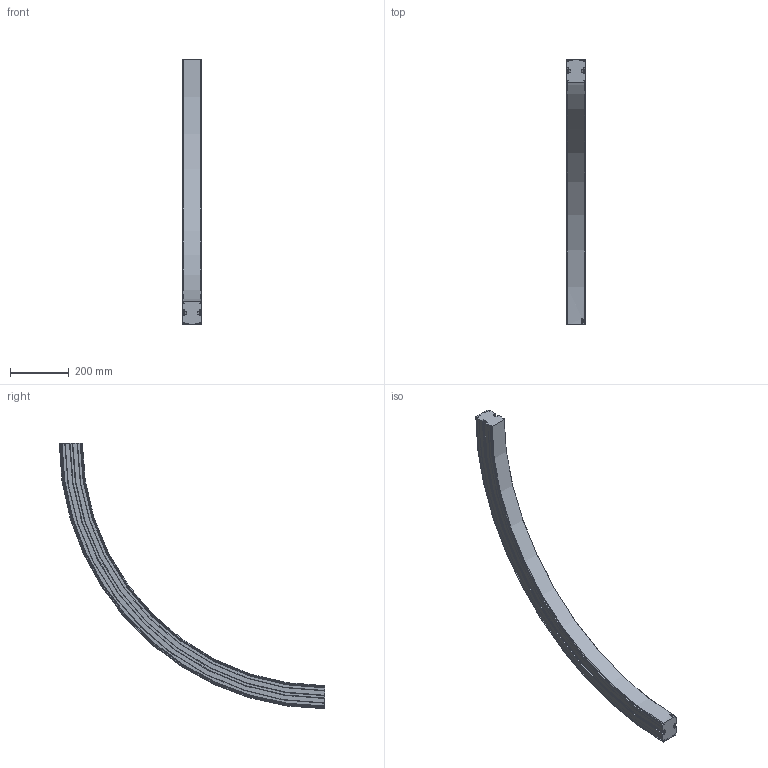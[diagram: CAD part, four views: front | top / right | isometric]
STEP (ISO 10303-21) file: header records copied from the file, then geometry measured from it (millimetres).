
FILE_DESCRIPTION(/* description */ ('VERTIKALKURVA S620 R860'),/* implementation_level */ '2;1');
FILE_NAME(/* name */ '\\carryline.intra\privat\users\mathias\Desktop\Tillfälliga filer\620-5695+620-2000-UPP-01.stp',/* time_stamp */ '2018-12-06T07:32:58+01:00',/* author */ ('MD'),/* organization */ ('CARRYLINE'),/* preprocessor_version */ 'ST-DEVELOPER v17',/* originating_system */ 'Autodesk Inventor 2018',/* authorisation */ '');
FILE_SCHEMA (('AUTOMOTIVE_DESIGN { 1 0 10303 214 3 1 1 }'));
Length unit declared in the file: millimetre
Products named in the file (1): 620-5695+620-2000-UPP-01
Bounding box: 64 x 900 x 900 mm (x, y, z)
Volume: 6034071.9 mm3; surface area: 662454.7 mm2
Topology: 1 solids, 1 shells, 149 faces, 426 edges, 284 vertices
Faces by surface type: plane 54, cylinder 37, torus 28, cone 16, bspline 14
Entity records: 9548 total; most frequent: CARTESIAN_POINT 5528, ORIENTED_EDGE 852, DIRECTION 836, EDGE_CURVE 426, AXIS2_PLACEMENT_3D 315, VERTEX_POINT 284, LINE 206, VECTOR 206
